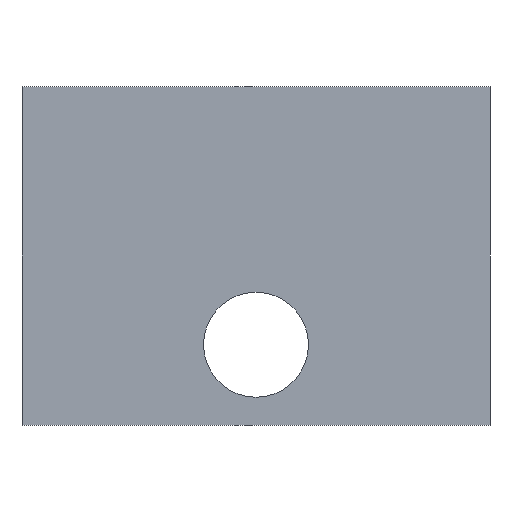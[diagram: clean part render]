
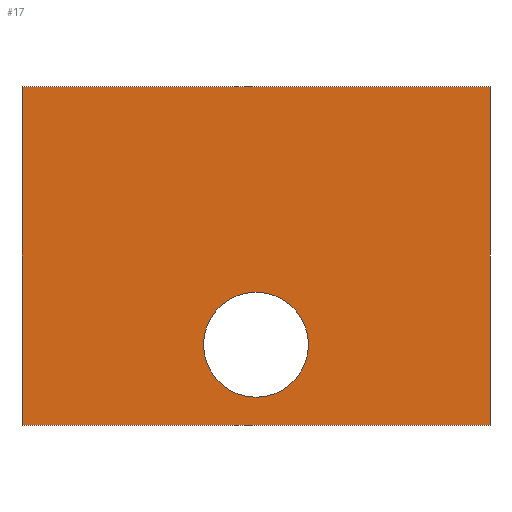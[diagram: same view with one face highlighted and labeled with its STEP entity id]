
A CAD part, left-side view. The second image highlights one B-rep face of the part: STEP entity #17.
In plain terms, the highlighted planar face has unit normal (-1, 0, 0).
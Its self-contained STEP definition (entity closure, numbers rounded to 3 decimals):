
#17 = ADVANCED_FACE('',(#18,#137),#32,.F.);
#18 = FACE_BOUND('',#19,.F.);
#19 = EDGE_LOOP('',(#20,#55,#83,#111));
#20 = ORIENTED_EDGE('',*,*,#21,.F.);
#21 = EDGE_CURVE('',#22,#24,#26,.T.);
#22 = VERTEX_POINT('',#23);
#23 = CARTESIAN_POINT('',(-768.,-622.5,1160.));
#24 = VERTEX_POINT('',#25);
#25 = CARTESIAN_POINT('',(-768.,-622.5,1265.));
#26 = SURFACE_CURVE('',#27,(#31,#43),.PCURVE_S1.);
#27 = LINE('',#28,#29);
#28 = CARTESIAN_POINT('',(-768.,-622.5,1160.));
#29 = VECTOR('',#30,1.);
#30 = DIRECTION('',(0.,0.,1.));
#31 = PCURVE('',#32,#37);
#32 = PLANE('',#33);
#33 = AXIS2_PLACEMENT_3D('',#34,#35,#36);
#34 = CARTESIAN_POINT('',(-768.,-622.5,1160.));
#35 = DIRECTION('',(1.,0.,-0.));
#36 = DIRECTION('',(0.,0.,1.));
#37 = DEFINITIONAL_REPRESENTATION('',(#38),#42);
#38 = LINE('',#39,#40);
#39 = CARTESIAN_POINT('',(0.,0.));
#40 = VECTOR('',#41,1.);
#41 = DIRECTION('',(1.,0.));
#42 = ( GEOMETRIC_REPRESENTATION_CONTEXT(2) 
PARAMETRIC_REPRESENTATION_CONTEXT() REPRESENTATION_CONTEXT('2D SPACE',''
  ) );
#43 = PCURVE('',#44,#49);
#44 = PLANE('',#45);
#45 = AXIS2_PLACEMENT_3D('',#46,#47,#48);
#46 = CARTESIAN_POINT('',(-768.,-622.5,1160.));
#47 = DIRECTION('',(-0.,1.,0.));
#48 = DIRECTION('',(0.,0.,1.));
#49 = DEFINITIONAL_REPRESENTATION('',(#50),#54);
#50 = LINE('',#51,#52);
#51 = CARTESIAN_POINT('',(0.,0.));
#52 = VECTOR('',#53,1.);
#53 = DIRECTION('',(1.,0.));
#54 = ( GEOMETRIC_REPRESENTATION_CONTEXT(2) 
PARAMETRIC_REPRESENTATION_CONTEXT() REPRESENTATION_CONTEXT('2D SPACE',''
  ) );
#55 = ORIENTED_EDGE('',*,*,#56,.T.);
#56 = EDGE_CURVE('',#22,#57,#59,.T.);
#57 = VERTEX_POINT('',#58);
#58 = CARTESIAN_POINT('',(-768.,-477.5,1160.));
#59 = SURFACE_CURVE('',#60,(#64,#71),.PCURVE_S1.);
#60 = LINE('',#61,#62);
#61 = CARTESIAN_POINT('',(-768.,-622.5,1160.));
#62 = VECTOR('',#63,1.);
#63 = DIRECTION('',(-0.,1.,0.));
#64 = PCURVE('',#32,#65);
#65 = DEFINITIONAL_REPRESENTATION('',(#66),#70);
#66 = LINE('',#67,#68);
#67 = CARTESIAN_POINT('',(0.,0.));
#68 = VECTOR('',#69,1.);
#69 = DIRECTION('',(0.,-1.));
#70 = ( GEOMETRIC_REPRESENTATION_CONTEXT(2) 
PARAMETRIC_REPRESENTATION_CONTEXT() REPRESENTATION_CONTEXT('2D SPACE',''
  ) );
#71 = PCURVE('',#72,#77);
#72 = PLANE('',#73);
#73 = AXIS2_PLACEMENT_3D('',#74,#75,#76);
#74 = CARTESIAN_POINT('',(-768.,-622.5,1160.));
#75 = DIRECTION('',(0.,0.,1.));
#76 = DIRECTION('',(1.,0.,-0.));
#77 = DEFINITIONAL_REPRESENTATION('',(#78),#82);
#78 = LINE('',#79,#80);
#79 = CARTESIAN_POINT('',(0.,0.));
#80 = VECTOR('',#81,1.);
#81 = DIRECTION('',(0.,1.));
#82 = ( GEOMETRIC_REPRESENTATION_CONTEXT(2) 
PARAMETRIC_REPRESENTATION_CONTEXT() REPRESENTATION_CONTEXT('2D SPACE',''
  ) );
#83 = ORIENTED_EDGE('',*,*,#84,.T.);
#84 = EDGE_CURVE('',#57,#85,#87,.T.);
#85 = VERTEX_POINT('',#86);
#86 = CARTESIAN_POINT('',(-768.,-477.5,1265.));
#87 = SURFACE_CURVE('',#88,(#92,#99),.PCURVE_S1.);
#88 = LINE('',#89,#90);
#89 = CARTESIAN_POINT('',(-768.,-477.5,1160.));
#90 = VECTOR('',#91,1.);
#91 = DIRECTION('',(0.,0.,1.));
#92 = PCURVE('',#32,#93);
#93 = DEFINITIONAL_REPRESENTATION('',(#94),#98);
#94 = LINE('',#95,#96);
#95 = CARTESIAN_POINT('',(0.,-145.));
#96 = VECTOR('',#97,1.);
#97 = DIRECTION('',(1.,0.));
#98 = ( GEOMETRIC_REPRESENTATION_CONTEXT(2) 
PARAMETRIC_REPRESENTATION_CONTEXT() REPRESENTATION_CONTEXT('2D SPACE',''
  ) );
#99 = PCURVE('',#100,#105);
#100 = PLANE('',#101);
#101 = AXIS2_PLACEMENT_3D('',#102,#103,#104);
#102 = CARTESIAN_POINT('',(-768.,-477.5,1160.));
#103 = DIRECTION('',(-0.,1.,0.));
#104 = DIRECTION('',(0.,0.,1.));
#105 = DEFINITIONAL_REPRESENTATION('',(#106),#110);
#106 = LINE('',#107,#108);
#107 = CARTESIAN_POINT('',(0.,0.));
#108 = VECTOR('',#109,1.);
#109 = DIRECTION('',(1.,0.));
#110 = ( GEOMETRIC_REPRESENTATION_CONTEXT(2) 
PARAMETRIC_REPRESENTATION_CONTEXT() REPRESENTATION_CONTEXT('2D SPACE',''
  ) );
#111 = ORIENTED_EDGE('',*,*,#112,.F.);
#112 = EDGE_CURVE('',#24,#85,#113,.T.);
#113 = SURFACE_CURVE('',#114,(#118,#125),.PCURVE_S1.);
#114 = LINE('',#115,#116);
#115 = CARTESIAN_POINT('',(-768.,-622.5,1265.));
#116 = VECTOR('',#117,1.);
#117 = DIRECTION('',(-0.,1.,0.));
#118 = PCURVE('',#32,#119);
#119 = DEFINITIONAL_REPRESENTATION('',(#120),#124);
#120 = LINE('',#121,#122);
#121 = CARTESIAN_POINT('',(105.,0.));
#122 = VECTOR('',#123,1.);
#123 = DIRECTION('',(0.,-1.));
#124 = ( GEOMETRIC_REPRESENTATION_CONTEXT(2) 
PARAMETRIC_REPRESENTATION_CONTEXT() REPRESENTATION_CONTEXT('2D SPACE',''
  ) );
#125 = PCURVE('',#126,#131);
#126 = PLANE('',#127);
#127 = AXIS2_PLACEMENT_3D('',#128,#129,#130);
#128 = CARTESIAN_POINT('',(-768.,-622.5,1265.));
#129 = DIRECTION('',(0.,0.,1.));
#130 = DIRECTION('',(1.,0.,-0.));
#131 = DEFINITIONAL_REPRESENTATION('',(#132),#136);
#132 = LINE('',#133,#134);
#133 = CARTESIAN_POINT('',(0.,0.));
#134 = VECTOR('',#135,1.);
#135 = DIRECTION('',(0.,1.));
#136 = ( GEOMETRIC_REPRESENTATION_CONTEXT(2) 
PARAMETRIC_REPRESENTATION_CONTEXT() REPRESENTATION_CONTEXT('2D SPACE',''
  ) );
#137 = FACE_BOUND('',#138,.F.);
#138 = EDGE_LOOP('',(#139));
#139 = ORIENTED_EDGE('',*,*,#140,.F.);
#140 = EDGE_CURVE('',#141,#141,#143,.T.);
#141 = VERTEX_POINT('',#142);
#142 = CARTESIAN_POINT('',(-768.,-550.,1201.25));
#143 = SURFACE_CURVE('',#144,(#149,#156),.PCURVE_S1.);
#144 = CIRCLE('',#145,16.25);
#145 = AXIS2_PLACEMENT_3D('',#146,#147,#148);
#146 = CARTESIAN_POINT('',(-768.,-550.,1185.));
#147 = DIRECTION('',(1.,0.,0.));
#148 = DIRECTION('',(-0.,0.,1.));
#149 = PCURVE('',#32,#150);
#150 = DEFINITIONAL_REPRESENTATION('',(#151),#155);
#151 = CIRCLE('',#152,16.25);
#152 = AXIS2_PLACEMENT_2D('',#153,#154);
#153 = CARTESIAN_POINT('',(25.,-72.5));
#154 = DIRECTION('',(1.,0.));
#155 = ( GEOMETRIC_REPRESENTATION_CONTEXT(2) 
PARAMETRIC_REPRESENTATION_CONTEXT() REPRESENTATION_CONTEXT('2D SPACE',''
  ) );
#156 = PCURVE('',#157,#162);
#157 = CYLINDRICAL_SURFACE('',#158,16.25);
#158 = AXIS2_PLACEMENT_3D('',#159,#160,#161);
#159 = CARTESIAN_POINT('',(-770.,-550.,1185.));
#160 = DIRECTION('',(1.,0.,0.));
#161 = DIRECTION('',(-0.,0.,1.));
#162 = DEFINITIONAL_REPRESENTATION('',(#163),#167);
#163 = LINE('',#164,#165);
#164 = CARTESIAN_POINT('',(0.,2.));
#165 = VECTOR('',#166,1.);
#166 = DIRECTION('',(1.,0.));
#167 = ( GEOMETRIC_REPRESENTATION_CONTEXT(2) 
PARAMETRIC_REPRESENTATION_CONTEXT() REPRESENTATION_CONTEXT('2D SPACE',''
  ) );
